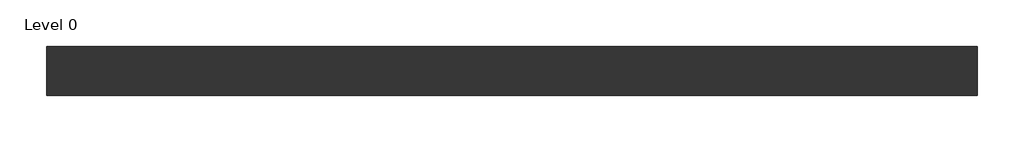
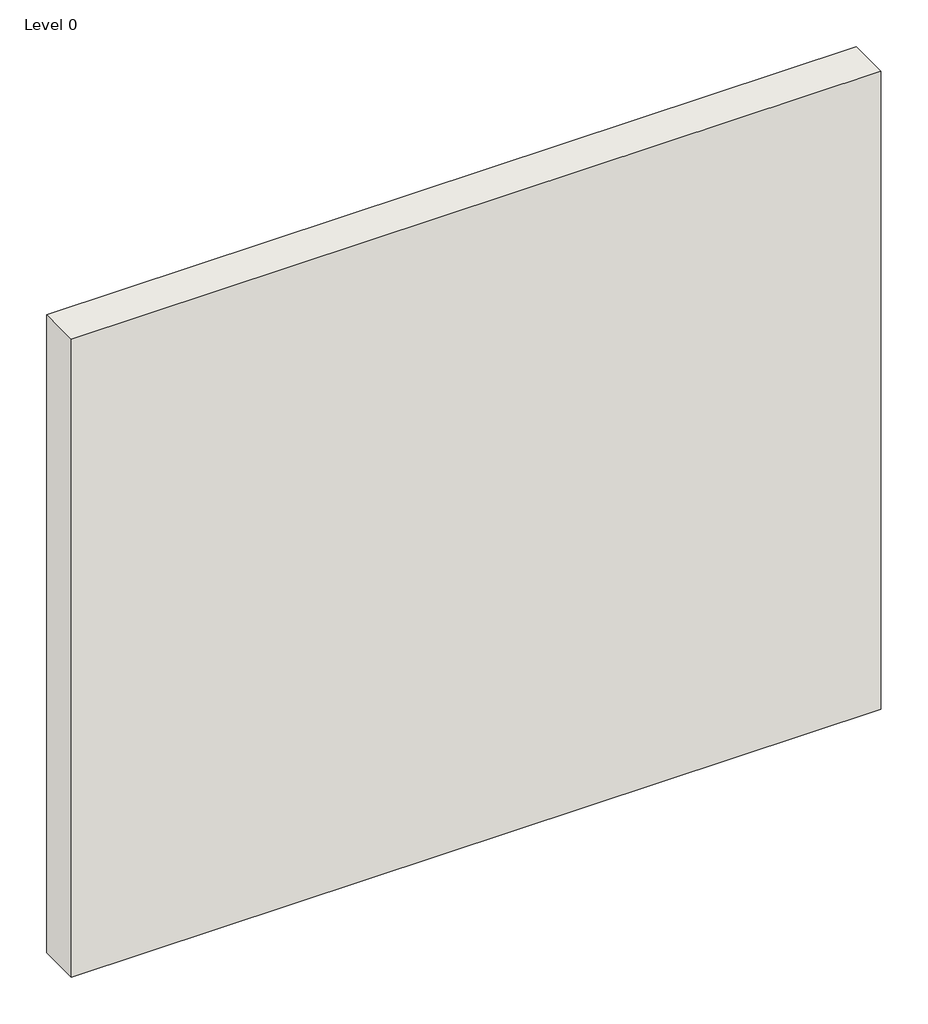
# One storey: 1 wall.
"""IFC4 building model written with IfcOpenShell, lengths in millimetres."""

from ifc_helpers import new_model, si_unit, origin, origin_with_axes, place, context, project, spatial, polyline, outline, extrude, element, save

model = new_model("IFC4")

# Units and contexts
model_context = context("Model", 3, world=origin())
ifc_project = project(units=[si_unit("LENGTHUNIT", "METRE", prefix="MILLI")], contexts=[model_context])

# Site, building, storey
site = spatial("IfcSite", under=ifc_project)
building = spatial("IfcBuilding", under=site)
storey = spatial("IfcBuildingStorey", under=building, Name="Level 0", Elevation=0.0)

# Wall
placement = place(None, origin())
element("IfcWall", 1, ObjectType="A316014 - GypWall QUIET SF", at=placement, inside=storey, context=model_context, shape_type="SweptSolid", body=[
    extrude(outline(polyline([(2116.0807354, 514.2205641), (-883.9192646, 514.2205641), (-883.9192646, 673.2205641), (2116.0807354, 673.2205641), (2116.0807354, 514.2205641)])), origin_with_axes(), (0.0, 0.0, 1.0), 2500.0),
])

save(model, "model.ifc")
